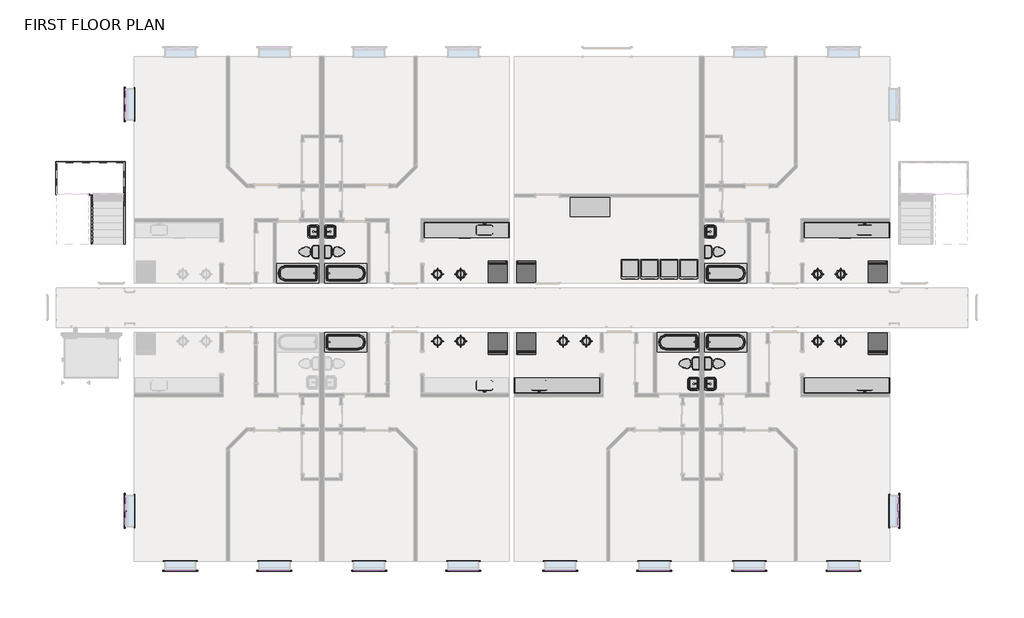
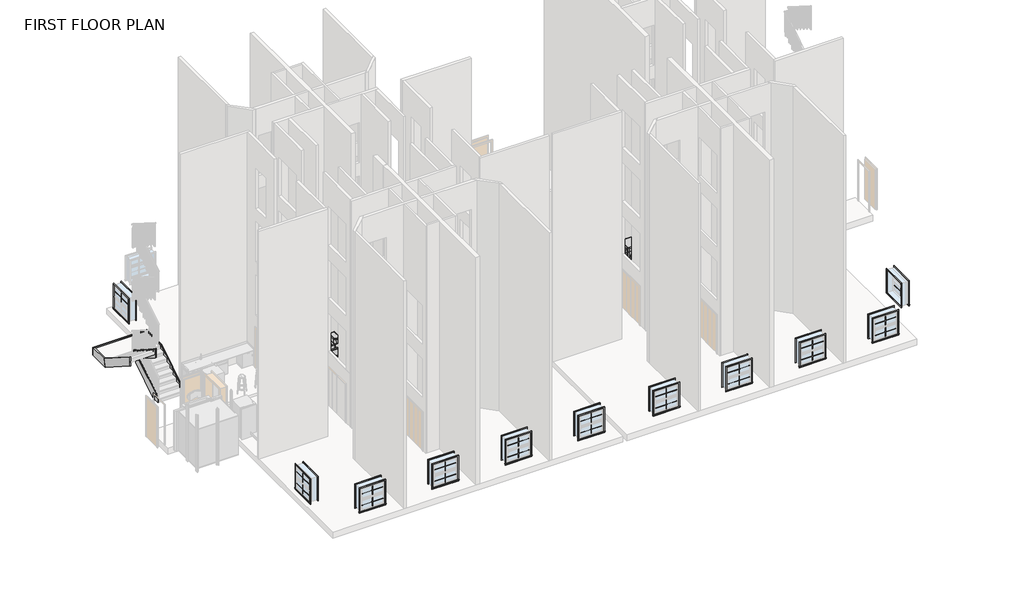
# One storey, part 6 of 7: 55 proxies, 23 furniture elements, 21 flow terminals, 8 members.
"""IFC4 building model written with IfcOpenShell, lengths in millimetres."""

from ifc_helpers import new_model, si_unit, frame, origin, place, context, project, spatial, polyline, outline, extrude, faceted_brep, transform, mapped, element, save
from components import specialty_equipment_021a704d, specialty_equipment_83a1406d, gd1329_240v_washer_card_operated_20cfbccd, k2515_dishwasher_household_k2515_dishwasher_household_46c228bc, muntin_pattern_2x2_muntin_pattern_2x2_c44f4804, muntin_pattern_2x2_muntin_pattern_2x2_05dfa543, muntin_pattern_2x2_muntin_pattern_2x2_770224b8, muntin_pattern_2x2_muntin_pattern_2x2_cf99dd86, trim_window_exterior_flat_with_sill_7cfdd449, trim_window_exterior_flat_with_sill_ac84ebb5, trim_window_interior_flat_picture_frame_f1e0b15b, trim_window_interior_flat_picture_frame_caf2db4f, lsy_sink_1a_065a4558, lsy_sink_1a_83b20bf5, flow_terminal_62a433f7, flow_terminal_4d0de4d3, toilet_domestic_3d_toilet_domestic_3d_f7549cf7, toilet_domestic_3d_toilet_domestic_3d_183bbd19, toilet_domestic_3d_toilet_domestic_3d_a08e12bc, toilet_domestic_3d_toilet_domestic_3d_5530cc89, tub_rectangular_3d_tub_rectangular_3d_2253513b, tub_rectangular_3d_tub_rectangular_3d_4e1d8e59, hb12_hb12_18_68083de8, hb12_hb12_21_dfdbf895, hb12_hb12_21_72806c5e, lsy_bench_top_24dx36h_e849d271, lsy_bench_top_24dx36h_08832318, lab_stool_lab_stool_8e3c4d68, lab_stool_lab_stool_061d08b2, sb02_sb2_36_312036f5, ta02_ta2_60_30d_ad4b619c

model = new_model("IFC4")

# Units and contexts
model_context = context("Model", 3, world=origin())
ifc_project = project(units=[si_unit("LENGTHUNIT", "METRE", prefix="MILLI")], contexts=[model_context])

# Site, building, storey
site = spatial("IfcSite", under=ifc_project)
building = spatial("IfcBuilding", under=site)
storey = spatial("IfcBuildingStorey", under=building, Name="FIRST FLOOR PLAN", Elevation=0.0)

# Proxies
placement = place(None, origin())
specialty_equipment_shape = specialty_equipment_021a704d(model_context)
element("IfcBuildingElementProxy", 1, Name="R7000 - Refrigerator, 14 Cubic Feet : R7000 - Refrigerator, 14 Cubic Feet", ObjectType="R7000 - Refrigerator, 14 Cubic Feet : R7000 - Refrigerator, 14 Cubic Feet", at=placement, inside=storey, context=model_context, shape_type="MappedRepresentation", body=[
    mapped(specialty_equipment_shape, transform((8976.3084875, 6904.9137881, 0.0), x_axis=(-1.0, 0.0, 0.0), y_axis=(0.0, -1.0, 0.0), z_axis=(0.0, 0.0, 1.0))),
])
element("IfcBuildingElementProxy", 2, Name="R7000 - Refrigerator, 14 Cubic Feet : R7000 - Refrigerator, 14 Cubic Feet", ObjectType="R7000 - Refrigerator, 14 Cubic Feet : R7000 - Refrigerator, 14 Cubic Feet", at=placement, inside=storey, context=model_context, shape_type="MappedRepresentation", body=[
    mapped(specialty_equipment_shape, transform((23799.9084875, 6904.9137881, 0.0), x_axis=(-1.0, 0.0, 0.0), y_axis=(0.0, -1.0, 0.0), z_axis=(0.0, 0.0, 1.0))),
])
element("IfcBuildingElementProxy", 3, Name="R7000 - Refrigerator, 14 Cubic Feet : R7000 - Refrigerator, 14 Cubic Feet", ObjectType="R7000 - Refrigerator, 14 Cubic Feet : R7000 - Refrigerator, 14 Cubic Feet", at=placement, inside=storey, context=model_context, shape_type="MappedRepresentation", body=[
    mapped(specialty_equipment_shape, transform((10085.5084875, 4094.7137881, 0.0), x_axis=(1.0, 0.0, 0.0), y_axis=(0.0, 1.0, 0.0), z_axis=(0.0, 0.0, 1.0))),
])
specialty_equipment_2_shape = specialty_equipment_83a1406d(model_context)
element("IfcBuildingElementProxy", 4, Name="R7000 - Refrigerator, 14 Cubic Feet : R7000 - Refrigerator, 14 Cubic Feet", ObjectType="R7000 - Refrigerator, 14 Cubic Feet : R7000 - Refrigerator, 14 Cubic Feet", at=placement, inside=storey, context=model_context, shape_type="MappedRepresentation", body=[
    mapped(specialty_equipment_2_shape, transform((8976.3084875, 4094.7137881, 0.0), x_axis=(-1.0, 0.0, 0.0), y_axis=(0.0, -1.0, 0.0), z_axis=(0.0, 0.0, 1.0))),
])
element("IfcBuildingElementProxy", 5, Name="R7000 - Refrigerator, 14 Cubic Feet : R7000 - Refrigerator, 14 Cubic Feet", ObjectType="R7000 - Refrigerator, 14 Cubic Feet : R7000 - Refrigerator, 14 Cubic Feet", at=placement, inside=storey, context=model_context, shape_type="MappedRepresentation", body=[
    mapped(specialty_equipment_2_shape, transform((23799.9084875, 4094.7137881, 0.0), x_axis=(-1.0, 0.0, 0.0), y_axis=(0.0, -1.0, 0.0), z_axis=(0.0, 0.0, 1.0))),
])
element("IfcBuildingElementProxy", 6, Name="R7000 - Refrigerator, 14 Cubic Feet : R7000 - Refrigerator, 14 Cubic Feet", ObjectType="R7000 - Refrigerator, 14 Cubic Feet : R7000 - Refrigerator, 14 Cubic Feet", at=placement, inside=storey, context=model_context, shape_type="MappedRepresentation", body=[
    mapped(specialty_equipment_2_shape, transform((10084.7084875, 6904.9137881, 0.0), x_axis=(1.0, 0.0, 0.0), y_axis=(0.0, 1.0, 0.0), z_axis=(0.0, 0.0, 1.0))),
])
gd1329_240v_washer_card_operated_shape = gd1329_240v_washer_card_operated_20cfbccd(model_context)
element("IfcBuildingElementProxy", 7, Name="Laundry_Equipment-Dryer-Continental_Girbau-LG_Platinum-Vended-Electric : GD1329 - 240V Washer - Card Operated", ObjectType="Laundry_Equipment-Dryer-Continental_Girbau-LG_Platinum-Vended-Electric : GD1329 - 240V Washer - Card Operated", at=placement, inside=storey, context=model_context, shape_type="MappedRepresentation", body=[
    mapped(gd1329_240v_washer_card_operated_shape, transform((16426.5084875, 6993.3137881, 0.0), x_axis=(1.0, 0.0, 0.0), y_axis=(0.0, 1.0, 0.0), z_axis=(0.0, 0.0, 1.0))),
])
element("IfcBuildingElementProxy", 8, Name="Laundry_Equipment-Dryer-Continental_Girbau-LG_Platinum-Vended-Electric : GD1329 - 240V Washer - Card Operated", ObjectType="Laundry_Equipment-Dryer-Continental_Girbau-LG_Platinum-Vended-Electric : GD1329 - 240V Washer - Card Operated", at=placement, inside=storey, context=model_context, shape_type="MappedRepresentation", body=[
    mapped(gd1329_240v_washer_card_operated_shape, transform((15664.3084875, 6993.3137881, 0.0), x_axis=(1.0, 0.0, 0.0), y_axis=(0.0, 1.0, 0.0), z_axis=(0.0, 0.0, 1.0))),
])
element("IfcBuildingElementProxy", 9, Name="Laundry_Equipment-Dryer-Continental_Girbau-LG_Platinum-Vended-Electric : GD1329 - 240V Washer - Card Operated", ObjectType="Laundry_Equipment-Dryer-Continental_Girbau-LG_Platinum-Vended-Electric : GD1329 - 240V Washer - Card Operated", at=placement, inside=storey, context=model_context, shape_type="MappedRepresentation", body=[
    mapped(gd1329_240v_washer_card_operated_shape, transform((14902.1084875, 6993.3137881, 0.0), x_axis=(1.0, 0.0, 0.0), y_axis=(0.0, 1.0, 0.0), z_axis=(0.0, 0.0, 1.0))),
])
element("IfcBuildingElementProxy", 10, Name="Laundry_Equipment-Dryer-Continental_Girbau-LG_Platinum-Vended-Electric : GD1329 - 240V Washer - Card Operated", ObjectType="Laundry_Equipment-Dryer-Continental_Girbau-LG_Platinum-Vended-Electric : GD1329 - 240V Washer - Card Operated", at=placement, inside=storey, context=model_context, shape_type="MappedRepresentation", body=[
    mapped(gd1329_240v_washer_card_operated_shape, transform((14139.9084875, 6993.3137881, 0.0), x_axis=(1.0, 0.0, 0.0), y_axis=(0.0, 1.0, 0.0), z_axis=(0.0, 0.0, 1.0))),
])
k2515_dishwasher_household_k2515_dishwasher_household_shape = k2515_dishwasher_household_k2515_dishwasher_household_46c228bc(model_context)
element("IfcBuildingElementProxy", 11, Name="K2515 - Dishwasher, Household : K2515 - Dishwasher, Household", ObjectType="K2515 - Dishwasher, Household : K2515 - Dishwasher, Household", at=placement, inside=storey, context=model_context, shape_type="MappedRepresentation", body=[
    mapped(k2515_dishwasher_household_k2515_dishwasher_household_shape, transform((7690.5959875, 8530.5137881, 0.0), x_axis=(-1.0, 0.0, 0.0), y_axis=(0.0, -1.0, 0.0), z_axis=(0.0, 0.0, 1.0))),
])
element("IfcBuildingElementProxy", 12, Name="K2515 - Dishwasher, Household : K2515 - Dishwasher, Household", ObjectType="K2515 - Dishwasher, Household : K2515 - Dishwasher, Household", at=placement, inside=storey, context=model_context, shape_type="MappedRepresentation", body=[
    mapped(k2515_dishwasher_household_k2515_dishwasher_household_shape, transform((22514.9959875, 8530.5137881, 0.0), x_axis=(-1.0, 0.0, 0.0), y_axis=(0.0, -1.0, 0.0), z_axis=(0.0, 0.0, 1.0))),
])
muntin_pattern_2x2_muntin_pattern_2x2_shape = muntin_pattern_2x2_muntin_pattern_2x2_c44f4804(model_context)
element("IfcBuildingElementProxy", 13, Name="Muntin Pattern_2x2 : Muntin Pattern_2x2", ObjectType="Muntin Pattern_2x2 : Muntin Pattern_2x2", at=placement, inside=storey, context=model_context, shape_type="MappedRepresentation", body=[
    mapped(muntin_pattern_2x2_muntin_pattern_2x2_shape, transform((-5537.3665125, 13431.007194, 1593.85), x_axis=(0.0, 1.0, 0.0), y_axis=(-1.0, 0.0, 0.0), z_axis=(0.0, 0.0, 1.0))),
])
element("IfcBuildingElementProxy", 14, Name="Muntin Pattern_2x2 : Muntin Pattern_2x2", ObjectType="Muntin Pattern_2x2 : Muntin Pattern_2x2", at=placement, inside=storey, context=model_context, shape_type="MappedRepresentation", body=[
    mapped(muntin_pattern_2x2_muntin_pattern_2x2_shape, transform((7635.6647375, -4742.0612119, 1593.85), x_axis=(-1.0, 0.0, 0.0), y_axis=(0.0, -1.0, 0.0), z_axis=(0.0, 0.0, 1.0))),
])
element("IfcBuildingElementProxy", 15, Name="Muntin Pattern_2x2 : Muntin Pattern_2x2", ObjectType="Muntin Pattern_2x2 : Muntin Pattern_2x2", at=placement, inside=storey, context=model_context, shape_type="MappedRepresentation", body=[
    mapped(muntin_pattern_2x2_muntin_pattern_2x2_shape, transform((3964.6522375, -4742.0612119, 1593.85), x_axis=(-1.0, 0.0, 0.0), y_axis=(0.0, -1.0, 0.0), z_axis=(0.0, 0.0, 1.0))),
])
element("IfcBuildingElementProxy", 16, Name="Muntin Pattern_2x2 : Muntin Pattern_2x2", ObjectType="Muntin Pattern_2x2 : Muntin Pattern_2x2", at=placement, inside=storey, context=model_context, shape_type="MappedRepresentation", body=[
    mapped(muntin_pattern_2x2_muntin_pattern_2x2_shape, transform((24597.5834875, -2431.3796179, 1593.85), x_axis=(0.0, -1.0, 0.0), y_axis=(1.0, 0.0, 0.0), z_axis=(0.0, 0.0, 1.0))),
])
element("IfcBuildingElementProxy", 17, Name="Muntin Pattern_2x2 : Muntin Pattern_2x2", ObjectType="Muntin Pattern_2x2 : Muntin Pattern_2x2", at=placement, inside=storey, context=model_context, shape_type="MappedRepresentation", body=[
    mapped(muntin_pattern_2x2_muntin_pattern_2x2_shape, transform((22460.0647375, -4742.0612119, 1593.85), x_axis=(-1.0, 0.0, 0.0), y_axis=(0.0, -1.0, 0.0), z_axis=(0.0, 0.0, 1.0))),
])
element("IfcBuildingElementProxy", 18, Name="Muntin Pattern_2x2 : Muntin Pattern_2x2", ObjectType="Muntin Pattern_2x2 : Muntin Pattern_2x2", at=placement, inside=storey, context=model_context, shape_type="MappedRepresentation", body=[
    mapped(muntin_pattern_2x2_muntin_pattern_2x2_shape, transform((18789.0522375, -4742.0612119, 1593.85), x_axis=(-1.0, 0.0, 0.0), y_axis=(0.0, -1.0, 0.0), z_axis=(0.0, 0.0, 1.0))),
])
muntin_pattern_2x2_muntin_pattern_2x2_2_shape = muntin_pattern_2x2_muntin_pattern_2x2_05dfa543(model_context)
element("IfcBuildingElementProxy", 19, Name="Muntin Pattern_2x2 : Muntin Pattern_2x2", ObjectType="Muntin Pattern_2x2 : Muntin Pattern_2x2", at=placement, inside=storey, context=model_context, shape_type="MappedRepresentation", body=[
    mapped(muntin_pattern_2x2_muntin_pattern_2x2_2_shape, transform((7635.6647375, -4742.0612119, 984.25), x_axis=(-1.0, 0.0, 0.0), y_axis=(0.0, -1.0, 0.0), z_axis=(0.0, 0.0, 1.0))),
])
element("IfcBuildingElementProxy", 20, Name="Muntin Pattern_2x2 : Muntin Pattern_2x2", ObjectType="Muntin Pattern_2x2 : Muntin Pattern_2x2", at=placement, inside=storey, context=model_context, shape_type="MappedRepresentation", body=[
    mapped(muntin_pattern_2x2_muntin_pattern_2x2_2_shape, transform((3964.6522375, -4742.0612119, 984.25), x_axis=(-1.0, 0.0, 0.0), y_axis=(0.0, -1.0, 0.0), z_axis=(0.0, 0.0, 1.0))),
])
element("IfcBuildingElementProxy", 21, Name="Muntin Pattern_2x2 : Muntin Pattern_2x2", ObjectType="Muntin Pattern_2x2 : Muntin Pattern_2x2", at=placement, inside=storey, context=model_context, shape_type="MappedRepresentation", body=[
    mapped(muntin_pattern_2x2_muntin_pattern_2x2_2_shape, transform((24597.5834875, -2431.3796179, 984.25), x_axis=(0.0, -1.0, 0.0), y_axis=(1.0, 0.0, 0.0), z_axis=(0.0, 0.0, 1.0))),
])
element("IfcBuildingElementProxy", 22, Name="Muntin Pattern_2x2 : Muntin Pattern_2x2", ObjectType="Muntin Pattern_2x2 : Muntin Pattern_2x2", at=placement, inside=storey, context=model_context, shape_type="MappedRepresentation", body=[
    mapped(muntin_pattern_2x2_muntin_pattern_2x2_2_shape, transform((22460.0647375, -4742.0612119, 984.25), x_axis=(-1.0, 0.0, 0.0), y_axis=(0.0, -1.0, 0.0), z_axis=(0.0, 0.0, 1.0))),
])
element("IfcBuildingElementProxy", 23, Name="Muntin Pattern_2x2 : Muntin Pattern_2x2", ObjectType="Muntin Pattern_2x2 : Muntin Pattern_2x2", at=placement, inside=storey, context=model_context, shape_type="MappedRepresentation", body=[
    mapped(muntin_pattern_2x2_muntin_pattern_2x2_2_shape, transform((18789.0522375, -4742.0612119, 984.25), x_axis=(-1.0, 0.0, 0.0), y_axis=(0.0, -1.0, 0.0), z_axis=(0.0, 0.0, 1.0))),
])
muntin_pattern_2x2_muntin_pattern_2x2_3_shape = muntin_pattern_2x2_muntin_pattern_2x2_770224b8(model_context)
element("IfcBuildingElementProxy", 24, Name="Muntin Pattern_2x2 : Muntin Pattern_2x2", ObjectType="Muntin Pattern_2x2 : Muntin Pattern_2x2", at=placement, inside=storey, context=model_context, shape_type="MappedRepresentation", body=[
    mapped(muntin_pattern_2x2_muntin_pattern_2x2_3_shape, transform((-5537.3665125, -2431.3796179, 1593.85), x_axis=(0.0, -1.0, 0.0), y_axis=(1.0, 0.0, 0.0), z_axis=(0.0, 0.0, 1.0))),
])
element("IfcBuildingElementProxy", 25, Name="Muntin Pattern_2x2 : Muntin Pattern_2x2", ObjectType="Muntin Pattern_2x2 : Muntin Pattern_2x2", at=placement, inside=storey, context=model_context, shape_type="MappedRepresentation", body=[
    mapped(muntin_pattern_2x2_muntin_pattern_2x2_3_shape, transform((-3399.0477625, -4742.0612119, 1593.85), x_axis=(1.0, 0.0, 0.0), y_axis=(0.0, 1.0, 0.0), z_axis=(0.0, 0.0, 1.0))),
])
element("IfcBuildingElementProxy", 26, Name="Muntin Pattern_2x2 : Muntin Pattern_2x2", ObjectType="Muntin Pattern_2x2 : Muntin Pattern_2x2", at=placement, inside=storey, context=model_context, shape_type="MappedRepresentation", body=[
    mapped(muntin_pattern_2x2_muntin_pattern_2x2_3_shape, transform((271.9647375, -4742.0612119, 1593.85), x_axis=(1.0, 0.0, 0.0), y_axis=(0.0, 1.0, 0.0), z_axis=(0.0, 0.0, 1.0))),
])
element("IfcBuildingElementProxy", 27, Name="Muntin Pattern_2x2 : Muntin Pattern_2x2", ObjectType="Muntin Pattern_2x2 : Muntin Pattern_2x2", at=placement, inside=storey, context=model_context, shape_type="MappedRepresentation", body=[
    mapped(muntin_pattern_2x2_muntin_pattern_2x2_3_shape, transform((11414.5522375, -4742.0612119, 1593.85), x_axis=(1.0, 0.0, 0.0), y_axis=(0.0, 1.0, 0.0), z_axis=(0.0, 0.0, 1.0))),
])
element("IfcBuildingElementProxy", 28, Name="Muntin Pattern_2x2 : Muntin Pattern_2x2", ObjectType="Muntin Pattern_2x2 : Muntin Pattern_2x2", at=placement, inside=storey, context=model_context, shape_type="MappedRepresentation", body=[
    mapped(muntin_pattern_2x2_muntin_pattern_2x2_3_shape, transform((15085.5647375, -4742.0612119, 1593.85), x_axis=(1.0, 0.0, 0.0), y_axis=(0.0, 1.0, 0.0), z_axis=(0.0, 0.0, 1.0))),
])
muntin_pattern_2x2_muntin_pattern_2x2_4_shape = muntin_pattern_2x2_muntin_pattern_2x2_cf99dd86(model_context)
element("IfcBuildingElementProxy", 29, Name="Muntin Pattern_2x2 : Muntin Pattern_2x2", ObjectType="Muntin Pattern_2x2 : Muntin Pattern_2x2", at=placement, inside=storey, context=model_context, shape_type="MappedRepresentation", body=[
    mapped(muntin_pattern_2x2_muntin_pattern_2x2_4_shape, transform((-5537.3665125, -2431.3796179, 984.25), x_axis=(0.0, -1.0, 0.0), y_axis=(1.0, 0.0, 0.0), z_axis=(0.0, 0.0, 1.0))),
])
element("IfcBuildingElementProxy", 30, Name="Muntin Pattern_2x2 : Muntin Pattern_2x2", ObjectType="Muntin Pattern_2x2 : Muntin Pattern_2x2", at=placement, inside=storey, context=model_context, shape_type="MappedRepresentation", body=[
    mapped(muntin_pattern_2x2_muntin_pattern_2x2_4_shape, transform((-3399.0477625, -4742.0612119, 984.25), x_axis=(1.0, 0.0, 0.0), y_axis=(0.0, 1.0, 0.0), z_axis=(0.0, 0.0, 1.0))),
])
element("IfcBuildingElementProxy", 31, Name="Muntin Pattern_2x2 : Muntin Pattern_2x2", ObjectType="Muntin Pattern_2x2 : Muntin Pattern_2x2", at=placement, inside=storey, context=model_context, shape_type="MappedRepresentation", body=[
    mapped(muntin_pattern_2x2_muntin_pattern_2x2_4_shape, transform((271.9647375, -4742.0612119, 984.25), x_axis=(1.0, 0.0, 0.0), y_axis=(0.0, 1.0, 0.0), z_axis=(0.0, 0.0, 1.0))),
])
element("IfcBuildingElementProxy", 32, Name="Muntin Pattern_2x2 : Muntin Pattern_2x2", ObjectType="Muntin Pattern_2x2 : Muntin Pattern_2x2", at=placement, inside=storey, context=model_context, shape_type="MappedRepresentation", body=[
    mapped(muntin_pattern_2x2_muntin_pattern_2x2_4_shape, transform((11414.5522375, -4742.0612119, 984.25), x_axis=(1.0, 0.0, 0.0), y_axis=(0.0, 1.0, 0.0), z_axis=(0.0, 0.0, 1.0))),
])
element("IfcBuildingElementProxy", 33, Name="Muntin Pattern_2x2 : Muntin Pattern_2x2", ObjectType="Muntin Pattern_2x2 : Muntin Pattern_2x2", at=placement, inside=storey, context=model_context, shape_type="MappedRepresentation", body=[
    mapped(muntin_pattern_2x2_muntin_pattern_2x2_4_shape, transform((15085.5647375, -4742.0612119, 984.25), x_axis=(1.0, 0.0, 0.0), y_axis=(0.0, 1.0, 0.0), z_axis=(0.0, 0.0, 1.0))),
])
trim_window_exterior_flat_with_sill_shape = trim_window_exterior_flat_with_sill_7cfdd449(model_context)
element("IfcBuildingElementProxy", 34, Name="Trim-Window-Exterior-Flat : with Sill", ObjectType="Trim-Window-Exterior-Flat : with Sill", at=placement, inside=storey, context=model_context, shape_type="MappedRepresentation", body=[
    mapped(trim_window_exterior_flat_with_sill_shape, transform((-5546.8915125, 13431.007194, 2133.6), x_axis=(0.0, -1.0, 0.0), y_axis=(0.0, 0.0, 1.0), z_axis=(-1.0, 0.0, 0.0))),
])
element("IfcBuildingElementProxy", 35, Name="Trim-Window-Exterior-Flat : with Sill", ObjectType="Trim-Window-Exterior-Flat : with Sill", at=placement, inside=storey, context=model_context, shape_type="MappedRepresentation", body=[
    mapped(trim_window_exterior_flat_with_sill_shape, transform((7635.6647375, -4751.5862119, 2133.6), x_axis=(1.0, 0.0, 0.0), y_axis=(0.0, 0.0, 1.0), z_axis=(0.0, -1.0, 0.0))),
])
element("IfcBuildingElementProxy", 36, Name="Trim-Window-Exterior-Flat : with Sill", ObjectType="Trim-Window-Exterior-Flat : with Sill", at=placement, inside=storey, context=model_context, shape_type="MappedRepresentation", body=[
    mapped(trim_window_exterior_flat_with_sill_shape, transform((3964.6522375, -4751.5862119, 2133.6), x_axis=(1.0, 0.0, 0.0), y_axis=(0.0, 0.0, 1.0), z_axis=(0.0, -1.0, 0.0))),
])
element("IfcBuildingElementProxy", 37, Name="Trim-Window-Exterior-Flat : with Sill", ObjectType="Trim-Window-Exterior-Flat : with Sill", at=placement, inside=storey, context=model_context, shape_type="MappedRepresentation", body=[
    mapped(trim_window_exterior_flat_with_sill_shape, transform((24607.1084875, -2431.3796179, 2133.6), x_axis=(0.0, 1.0, 0.0), y_axis=(0.0, 0.0, 1.0), z_axis=(1.0, 0.0, 0.0))),
])
element("IfcBuildingElementProxy", 38, Name="Trim-Window-Exterior-Flat : with Sill", ObjectType="Trim-Window-Exterior-Flat : with Sill", at=placement, inside=storey, context=model_context, shape_type="MappedRepresentation", body=[
    mapped(trim_window_exterior_flat_with_sill_shape, transform((22460.0647375, -4751.5862119, 2133.6), x_axis=(1.0, 0.0, 0.0), y_axis=(0.0, 0.0, 1.0), z_axis=(0.0, -1.0, 0.0))),
])
element("IfcBuildingElementProxy", 39, Name="Trim-Window-Exterior-Flat : with Sill", ObjectType="Trim-Window-Exterior-Flat : with Sill", at=placement, inside=storey, context=model_context, shape_type="MappedRepresentation", body=[
    mapped(trim_window_exterior_flat_with_sill_shape, transform((18789.0522375, -4751.5862119, 2133.6), x_axis=(1.0, 0.0, 0.0), y_axis=(0.0, 0.0, 1.0), z_axis=(0.0, -1.0, 0.0))),
])
trim_window_exterior_flat_with_sill_2_shape = trim_window_exterior_flat_with_sill_ac84ebb5(model_context)
element("IfcBuildingElementProxy", 40, Name="Trim-Window-Exterior-Flat : with Sill", ObjectType="Trim-Window-Exterior-Flat : with Sill", at=placement, inside=storey, context=model_context, shape_type="MappedRepresentation", body=[
    mapped(trim_window_exterior_flat_with_sill_2_shape, transform((-5546.8915125, -2431.3796179, 2133.6), x_axis=(0.0, 1.0, 0.0), y_axis=(0.0, 0.0, -1.0), z_axis=(-1.0, 0.0, 0.0))),
])
element("IfcBuildingElementProxy", 41, Name="Trim-Window-Exterior-Flat : with Sill", ObjectType="Trim-Window-Exterior-Flat : with Sill", at=placement, inside=storey, context=model_context, shape_type="MappedRepresentation", body=[
    mapped(trim_window_exterior_flat_with_sill_2_shape, transform((-3399.0477625, -4751.5862119, 2133.6), x_axis=(-1.0, 0.0, 0.0), y_axis=(0.0, 0.0, -1.0), z_axis=(0.0, -1.0, 0.0))),
])
element("IfcBuildingElementProxy", 42, Name="Trim-Window-Exterior-Flat : with Sill", ObjectType="Trim-Window-Exterior-Flat : with Sill", at=placement, inside=storey, context=model_context, shape_type="MappedRepresentation", body=[
    mapped(trim_window_exterior_flat_with_sill_2_shape, transform((271.9647375, -4751.5862119, 2133.6), x_axis=(-1.0, 0.0, 0.0), y_axis=(0.0, 0.0, -1.0), z_axis=(0.0, -1.0, 0.0))),
])
element("IfcBuildingElementProxy", 43, Name="Trim-Window-Exterior-Flat : with Sill", ObjectType="Trim-Window-Exterior-Flat : with Sill", at=placement, inside=storey, context=model_context, shape_type="MappedRepresentation", body=[
    mapped(trim_window_exterior_flat_with_sill_2_shape, transform((11414.5522375, -4751.5862119, 2133.6), x_axis=(-1.0, 0.0, 0.0), y_axis=(0.0, 0.0, -1.0), z_axis=(0.0, -1.0, 0.0))),
])
element("IfcBuildingElementProxy", 44, Name="Trim-Window-Exterior-Flat : with Sill", ObjectType="Trim-Window-Exterior-Flat : with Sill", at=placement, inside=storey, context=model_context, shape_type="MappedRepresentation", body=[
    mapped(trim_window_exterior_flat_with_sill_2_shape, transform((15085.5647375, -4751.5862119, 2133.6), x_axis=(-1.0, 0.0, 0.0), y_axis=(0.0, 0.0, -1.0), z_axis=(0.0, -1.0, 0.0))),
])
trim_window_interior_flat_picture_frame_shape = trim_window_interior_flat_picture_frame_f1e0b15b(model_context)
element("IfcBuildingElementProxy", 45, Name="Trim-Window-Interior-Flat : Picture Frame", ObjectType="Trim-Window-Interior-Flat : Picture Frame", at=placement, inside=storey, context=model_context, shape_type="MappedRepresentation", body=[
    mapped(trim_window_interior_flat_picture_frame_shape, transform((-5196.8915125, 13431.007194, 2133.6), x_axis=(0.0, 1.0, 0.0), y_axis=(0.0, 0.0, 1.0), z_axis=(1.0, 0.0, 0.0))),
])
element("IfcBuildingElementProxy", 46, Name="Trim-Window-Interior-Flat : Picture Frame", ObjectType="Trim-Window-Interior-Flat : Picture Frame", at=placement, inside=storey, context=model_context, shape_type="MappedRepresentation", body=[
    mapped(trim_window_interior_flat_picture_frame_shape, transform((7635.6647375, -4401.5862119, 2133.6), x_axis=(-1.0, 0.0, 0.0), y_axis=(0.0, 0.0, 1.0), z_axis=(0.0, 1.0, 0.0))),
])
element("IfcBuildingElementProxy", 47, Name="Trim-Window-Interior-Flat : Picture Frame", ObjectType="Trim-Window-Interior-Flat : Picture Frame", at=placement, inside=storey, context=model_context, shape_type="MappedRepresentation", body=[
    mapped(trim_window_interior_flat_picture_frame_shape, transform((3964.6522375, -4401.5862119, 2133.6), x_axis=(-1.0, 0.0, 0.0), y_axis=(0.0, 0.0, 1.0), z_axis=(0.0, 1.0, 0.0))),
])
element("IfcBuildingElementProxy", 48, Name="Trim-Window-Interior-Flat : Picture Frame", ObjectType="Trim-Window-Interior-Flat : Picture Frame", at=placement, inside=storey, context=model_context, shape_type="MappedRepresentation", body=[
    mapped(trim_window_interior_flat_picture_frame_shape, transform((24257.1084875, -2431.3796179, 2133.6), x_axis=(0.0, -1.0, 0.0), y_axis=(0.0, 0.0, 1.0), z_axis=(-1.0, 0.0, 0.0))),
])
element("IfcBuildingElementProxy", 49, Name="Trim-Window-Interior-Flat : Picture Frame", ObjectType="Trim-Window-Interior-Flat : Picture Frame", at=placement, inside=storey, context=model_context, shape_type="MappedRepresentation", body=[
    mapped(trim_window_interior_flat_picture_frame_shape, transform((22460.0647375, -4401.5862119, 2133.6), x_axis=(-1.0, 0.0, 0.0), y_axis=(0.0, 0.0, 1.0), z_axis=(0.0, 1.0, 0.0))),
])
element("IfcBuildingElementProxy", 50, Name="Trim-Window-Interior-Flat : Picture Frame", ObjectType="Trim-Window-Interior-Flat : Picture Frame", at=placement, inside=storey, context=model_context, shape_type="MappedRepresentation", body=[
    mapped(trim_window_interior_flat_picture_frame_shape, transform((18789.0522375, -4401.5862119, 2133.6), x_axis=(-1.0, 0.0, 0.0), y_axis=(0.0, 0.0, 1.0), z_axis=(0.0, 1.0, 0.0))),
])
trim_window_interior_flat_picture_frame_2_shape = trim_window_interior_flat_picture_frame_caf2db4f(model_context)
element("IfcBuildingElementProxy", 51, Name="Trim-Window-Interior-Flat : Picture Frame", ObjectType="Trim-Window-Interior-Flat : Picture Frame", at=placement, inside=storey, context=model_context, shape_type="MappedRepresentation", body=[
    mapped(trim_window_interior_flat_picture_frame_2_shape, transform((-5196.8915125, -2431.3796179, 2133.6), x_axis=(0.0, -1.0, 0.0), y_axis=(0.0, 0.0, -1.0), z_axis=(1.0, 0.0, 0.0))),
])
element("IfcBuildingElementProxy", 52, Name="Trim-Window-Interior-Flat : Picture Frame", ObjectType="Trim-Window-Interior-Flat : Picture Frame", at=placement, inside=storey, context=model_context, shape_type="MappedRepresentation", body=[
    mapped(trim_window_interior_flat_picture_frame_2_shape, transform((-3399.0477625, -4401.5862119, 2133.6), x_axis=(1.0, 0.0, 0.0), y_axis=(0.0, 0.0, -1.0), z_axis=(0.0, 1.0, 0.0))),
])
element("IfcBuildingElementProxy", 53, Name="Trim-Window-Interior-Flat : Picture Frame", ObjectType="Trim-Window-Interior-Flat : Picture Frame", at=placement, inside=storey, context=model_context, shape_type="MappedRepresentation", body=[
    mapped(trim_window_interior_flat_picture_frame_2_shape, transform((271.9647375, -4401.5862119, 2133.6), x_axis=(1.0, 0.0, 0.0), y_axis=(0.0, 0.0, -1.0), z_axis=(0.0, 1.0, 0.0))),
])
element("IfcBuildingElementProxy", 54, Name="Trim-Window-Interior-Flat : Picture Frame", ObjectType="Trim-Window-Interior-Flat : Picture Frame", at=placement, inside=storey, context=model_context, shape_type="MappedRepresentation", body=[
    mapped(trim_window_interior_flat_picture_frame_2_shape, transform((11414.5522375, -4401.5862119, 2133.6), x_axis=(1.0, 0.0, 0.0), y_axis=(0.0, 0.0, -1.0), z_axis=(0.0, 1.0, 0.0))),
])
element("IfcBuildingElementProxy", 55, Name="Trim-Window-Interior-Flat : Picture Frame", ObjectType="Trim-Window-Interior-Flat : Picture Frame", at=placement, inside=storey, context=model_context, shape_type="MappedRepresentation", body=[
    mapped(trim_window_interior_flat_picture_frame_2_shape, transform((15085.5647375, -4401.5862119, 2133.6), x_axis=(1.0, 0.0, 0.0), y_axis=(0.0, 0.0, -1.0), z_axis=(0.0, 1.0, 0.0))),
])

# Flow terminals
lsy_sink_1a_shape = lsy_sink_1a_065a4558(model_context)
element("IfcFlowTerminal", 56, ObjectType="LSY_Sink_1A : 25\"W x 15\"D", at=placement, inside=storey, context=model_context, shape_type="MappedRepresentation", body=[
    mapped(lsy_sink_1a_shape, transform((8482.410228, 2373.0341892, -38.1), x_axis=(-1.0, 0.0, 0.0), y_axis=(0.0, -1.0, 0.0), z_axis=(0.0, 0.0, 1.0))),
])
element("IfcFlowTerminal", 57, ObjectType="LSY_Sink_1A : 25\"W x 15\"D", at=placement, inside=storey, context=model_context, shape_type="MappedRepresentation", body=[
    mapped(lsy_sink_1a_shape, transform((23306.010228, 2373.0341892, -38.1), x_axis=(-1.0, 0.0, 0.0), y_axis=(0.0, -1.0, 0.0), z_axis=(0.0, 0.0, 1.0))),
])
lsy_sink_1a_2_shape = lsy_sink_1a_83b20bf5(model_context)
element("IfcFlowTerminal", 58, ObjectType="LSY_Sink_1A : 25\"W x 15\"D", at=placement, inside=storey, context=model_context, shape_type="MappedRepresentation", body=[
    mapped(lsy_sink_1a_2_shape, transform((8482.410228, 8626.5933869, -38.1), x_axis=(-1.0, 0.0, 0.0), y_axis=(0.0, -1.0, 0.0), z_axis=(0.0, 0.0, 1.0))),
])
element("IfcFlowTerminal", 59, ObjectType="LSY_Sink_1A : 25\"W x 15\"D", at=placement, inside=storey, context=model_context, shape_type="MappedRepresentation", body=[
    mapped(lsy_sink_1a_2_shape, transform((23306.010228, 8626.5933869, -38.1), x_axis=(-1.0, 0.0, 0.0), y_axis=(0.0, -1.0, 0.0), z_axis=(0.0, 0.0, 1.0))),
])
element("IfcFlowTerminal", 60, ObjectType="LSY_Sink_1A : 25\"W x 15\"D", at=placement, inside=storey, context=model_context, shape_type="MappedRepresentation", body=[
    mapped(lsy_sink_1a_2_shape, transform((10579.4067469, 2373.0341892, -38.1), x_axis=(1.0, 0.0, 0.0), y_axis=(0.0, 1.0, 0.0), z_axis=(0.0, 0.0, 1.0))),
])
flow_terminal_shape = flow_terminal_62a433f7(model_context)
element("IfcFlowTerminal", 61, ObjectType="Sink Vanity-Square : 20\" x 18\"", at=placement, inside=storey, context=model_context, shape_type="MappedRepresentation", body=[
    mapped(flow_terminal_shape, transform((1841.1630863, 8482.7030286, 0.0), x_axis=(0.0, -1.0, 0.0), y_axis=(1.0, 0.0, 0.0), z_axis=(0.0, 0.0, 1.0))),
])
element("IfcFlowTerminal", 62, ObjectType="Sink Vanity-Square : 20\" x 18\"", at=placement, inside=storey, context=model_context, shape_type="MappedRepresentation", body=[
    mapped(flow_terminal_shape, transform((17219.0538886, 2516.9245475, 0.0), x_axis=(0.0, 1.0, 0.0), y_axis=(-1.0, 0.0, 0.0), z_axis=(0.0, 0.0, 1.0))),
])
flow_terminal_2_shape = flow_terminal_4d0de4d3(model_context)
element("IfcFlowTerminal", 63, ObjectType="Sink Vanity-Square : 20\" x 18\"", at=placement, inside=storey, context=model_context, shape_type="MappedRepresentation", body=[
    mapped(flow_terminal_2_shape, transform((2395.4538886, 8482.7030286, 0.0), x_axis=(0.0, -1.0, 0.0), y_axis=(1.0, 0.0, 0.0), z_axis=(0.0, 0.0, 1.0))),
])
element("IfcFlowTerminal", 64, ObjectType="Sink Vanity-Square : 20\" x 18\"", at=placement, inside=storey, context=model_context, shape_type="MappedRepresentation", body=[
    mapped(flow_terminal_2_shape, transform((17219.0538886, 8482.7030286, 0.0), x_axis=(0.0, -1.0, 0.0), y_axis=(1.0, 0.0, 0.0), z_axis=(0.0, 0.0, 1.0))),
])
element("IfcFlowTerminal", 65, ObjectType="Sink Vanity-Square : 20\" x 18\"", at=placement, inside=storey, context=model_context, shape_type="MappedRepresentation", body=[
    mapped(flow_terminal_2_shape, transform((16666.3630863, 2516.9245475, 0.0), x_axis=(0.0, 1.0, 0.0), y_axis=(-1.0, 0.0, 0.0), z_axis=(0.0, 0.0, 1.0))),
])
toilet_domestic_3d_toilet_domestic_3d_shape = toilet_domestic_3d_toilet_domestic_3d_f7549cf7(model_context)
toilet_domestic_3d_toilet_domestic_3d_2_shape = toilet_domestic_3d_toilet_domestic_3d_183bbd19(model_context)
element("IfcFlowTerminal", 66, ObjectType="Toilet-Domestic-3D : Toilet-Domestic-3D", at=placement, inside=storey, context=model_context, shape_type="MappedRepresentation", body=[
    mapped(toilet_domestic_3d_toilet_domestic_3d_shape, transform((1526.6124601, 7679.6137881, 0.0), x_axis=(0.0, -1.0, 0.0), y_axis=(1.0, 0.0, 0.0), z_axis=(0.0, 0.0, 1.0))),
    mapped(toilet_domestic_3d_toilet_domestic_3d_2_shape, transform((1526.6124601, 7679.6137881, 0.0), x_axis=(0.0, -1.0, 0.0), y_axis=(1.0, 0.0, 0.0), z_axis=(0.0, 0.0, 1.0))),
])
element("IfcFlowTerminal", 67, ObjectType="Toilet-Domestic-3D : Toilet-Domestic-3D", at=placement, inside=storey, context=model_context, shape_type="MappedRepresentation", body=[
    mapped(toilet_domestic_3d_toilet_domestic_3d_shape, transform((17533.6045148, 3320.0137881, 0.0), x_axis=(0.0, 1.0, 0.0), y_axis=(-1.0, 0.0, 0.0), z_axis=(0.0, 0.0, 1.0))),
    mapped(toilet_domestic_3d_toilet_domestic_3d_2_shape, transform((17533.6045148, 3320.0137881, 0.0), x_axis=(0.0, 1.0, 0.0), y_axis=(-1.0, 0.0, 0.0), z_axis=(0.0, 0.0, 1.0))),
])
toilet_domestic_3d_toilet_domestic_3d_3_shape = toilet_domestic_3d_toilet_domestic_3d_a08e12bc(model_context)
toilet_domestic_3d_toilet_domestic_3d_4_shape = toilet_domestic_3d_toilet_domestic_3d_5530cc89(model_context)
element("IfcFlowTerminal", 68, ObjectType="Toilet-Domestic-3D : Toilet-Domestic-3D", at=placement, inside=storey, context=model_context, shape_type="MappedRepresentation", body=[
    mapped(toilet_domestic_3d_toilet_domestic_3d_3_shape, transform((2710.0045148, 7679.6137881, 0.0), x_axis=(0.0, -1.0, 0.0), y_axis=(1.0, 0.0, 0.0), z_axis=(0.0, 0.0, 1.0))),
    mapped(toilet_domestic_3d_toilet_domestic_3d_4_shape, transform((2710.0045148, 7679.6137881, 0.0), x_axis=(0.0, -1.0, 0.0), y_axis=(1.0, 0.0, 0.0), z_axis=(0.0, 0.0, 1.0))),
])
element("IfcFlowTerminal", 69, ObjectType="Toilet-Domestic-3D : Toilet-Domestic-3D", at=placement, inside=storey, context=model_context, shape_type="MappedRepresentation", body=[
    mapped(toilet_domestic_3d_toilet_domestic_3d_3_shape, transform((17533.6045148, 7679.6137881, 0.0), x_axis=(0.0, -1.0, 0.0), y_axis=(1.0, 0.0, 0.0), z_axis=(0.0, 0.0, 1.0))),
    mapped(toilet_domestic_3d_toilet_domestic_3d_4_shape, transform((17533.6045148, 7679.6137881, 0.0), x_axis=(0.0, -1.0, 0.0), y_axis=(1.0, 0.0, 0.0), z_axis=(0.0, 0.0, 1.0))),
])
element("IfcFlowTerminal", 70, ObjectType="Toilet-Domestic-3D : Toilet-Domestic-3D", at=placement, inside=storey, context=model_context, shape_type="MappedRepresentation", body=[
    mapped(toilet_domestic_3d_toilet_domestic_3d_3_shape, transform((16351.8124601, 3320.0137881, 0.0), x_axis=(0.0, 1.0, 0.0), y_axis=(-1.0, 0.0, 0.0), z_axis=(0.0, 0.0, 1.0))),
    mapped(toilet_domestic_3d_toilet_domestic_3d_4_shape, transform((16351.8124601, 3320.0137881, 0.0), x_axis=(0.0, 1.0, 0.0), y_axis=(-1.0, 0.0, 0.0), z_axis=(0.0, 0.0, 1.0))),
])
tub_rectangular_3d_tub_rectangular_3d_shape = tub_rectangular_3d_tub_rectangular_3d_2253513b(model_context)
element("IfcFlowTerminal", 71, ObjectType="Tub-Rectangular-3D : Tub-Rectangular-3D", at=placement, inside=storey, context=model_context, shape_type="MappedRepresentation", body=[
    mapped(tub_rectangular_3d_tub_rectangular_3d_shape, transform((913.8805188, 6363.4137881, 0.0), x_axis=(-1.0, 0.0, 0.0), y_axis=(0.0, -1.0, 0.0), z_axis=(0.0, 0.0, 1.0))),
])
element("IfcFlowTerminal", 72, ObjectType="Tub-Rectangular-3D : Tub-Rectangular-3D", at=placement, inside=storey, context=model_context, shape_type="MappedRepresentation", body=[
    mapped(tub_rectangular_3d_tub_rectangular_3d_shape, transform((3325.9114562, 4636.2137881, 0.0), x_axis=(1.0, 0.0, 0.0), y_axis=(0.0, 1.0, 0.0), z_axis=(0.0, 0.0, 1.0))),
])
element("IfcFlowTerminal", 73, ObjectType="Tub-Rectangular-3D : Tub-Rectangular-3D", at=placement, inside=storey, context=model_context, shape_type="MappedRepresentation", body=[
    mapped(tub_rectangular_3d_tub_rectangular_3d_shape, transform((18146.3364562, 4636.2137881, 0.0), x_axis=(1.0, 0.0, 0.0), y_axis=(0.0, 1.0, 0.0), z_axis=(0.0, 0.0, 1.0))),
])
tub_rectangular_3d_tub_rectangular_3d_2_shape = tub_rectangular_3d_tub_rectangular_3d_4e1d8e59(model_context)
element("IfcFlowTerminal", 74, ObjectType="Tub-Rectangular-3D : Tub-Rectangular-3D", at=placement, inside=storey, context=model_context, shape_type="MappedRepresentation", body=[
    mapped(tub_rectangular_3d_tub_rectangular_3d_2_shape, transform((3322.7364562, 6363.4137881, 0.0), x_axis=(1.0, 0.0, 0.0), y_axis=(0.0, 1.0, 0.0), z_axis=(0.0, 0.0, 1.0))),
])
element("IfcFlowTerminal", 75, ObjectType="Tub-Rectangular-3D : Tub-Rectangular-3D", at=placement, inside=storey, context=model_context, shape_type="MappedRepresentation", body=[
    mapped(tub_rectangular_3d_tub_rectangular_3d_2_shape, transform((18146.3364562, 6363.4137881, 0.0), x_axis=(1.0, 0.0, 0.0), y_axis=(0.0, 1.0, 0.0), z_axis=(0.0, 0.0, 1.0))),
])
element("IfcFlowTerminal", 76, ObjectType="Tub-Rectangular-3D : Tub-Rectangular-3D", at=placement, inside=storey, context=model_context, shape_type="MappedRepresentation", body=[
    mapped(tub_rectangular_3d_tub_rectangular_3d_2_shape, transform((15739.0805188, 4636.2137881, 0.0), x_axis=(-1.0, 0.0, 0.0), y_axis=(0.0, -1.0, 0.0), z_axis=(0.0, 0.0, 1.0))),
])

# Furniture
hb12_hb12_18_shape = hb12_hb12_18_68083de8(model_context)
element("IfcFurniture", 77, ObjectType="HB12 : HB12-18", at=placement, inside=storey, context=model_context, shape_type="MappedRepresentation", body=[
    mapped(hb12_hb12_18_shape, transform((9119.6582825, 8848.0137881, 0.0), x_axis=(1.0, 0.0, 0.0), y_axis=(0.0, 1.0, 0.0), z_axis=(0.0, 0.0, 1.0))),
])
element("IfcFurniture", 78, ObjectType="HB12 : HB12-18", at=placement, inside=storey, context=model_context, shape_type="MappedRepresentation", body=[
    mapped(hb12_hb12_18_shape, transform((23944.0582825, 8848.0137881, 0.0), x_axis=(1.0, 0.0, 0.0), y_axis=(0.0, 1.0, 0.0), z_axis=(0.0, 0.0, 1.0))),
])
hb12_hb12_21_shape = hb12_hb12_21_dfdbf895(model_context)
element("IfcFurniture", 79, ObjectType="HB12 : HB12-21", at=placement, inside=storey, context=model_context, shape_type="MappedRepresentation", body=[
    mapped(hb12_hb12_21_shape, transform((21201.0211924, 2151.6137881, 0.0), x_axis=(-1.0, 0.0, 0.0), y_axis=(0.0, -1.0, 0.0), z_axis=(0.0, 0.0, 1.0))),
])
hb12_hb12_21_2_shape = hb12_hb12_21_72806c5e(model_context)
element("IfcFurniture", 80, ObjectType="HB12 : HB12-21", at=placement, inside=storey, context=model_context, shape_type="MappedRepresentation", body=[
    mapped(hb12_hb12_21_2_shape, transform((6377.4211924, 8848.0137881, 0.0), x_axis=(-1.0, 0.0, 0.0), y_axis=(0.0, -1.0, 0.0), z_axis=(0.0, 0.0, 1.0))),
])
element("IfcFurniture", 81, ObjectType="HB12 : HB12-21", at=placement, inside=storey, context=model_context, shape_type="MappedRepresentation", body=[
    mapped(hb12_hb12_21_2_shape, transform((21201.0211924, 8848.0137881, 0.0), x_axis=(-1.0, 0.0, 0.0), y_axis=(0.0, -1.0, 0.0), z_axis=(0.0, 0.0, 1.0))),
])
element("IfcFurniture", 82, ObjectType="HB12 : HB12-21", at=placement, inside=storey, context=model_context, shape_type="MappedRepresentation", body=[
    mapped(hb12_hb12_21_2_shape, transform((12684.3957825, 2151.6137881, 0.0), x_axis=(1.0, 0.0, 0.0), y_axis=(0.0, 1.0, 0.0), z_axis=(0.0, 0.0, 1.0))),
])
lsy_bench_top_24dx36h_shape = lsy_bench_top_24dx36h_e849d271(model_context)
element("IfcFurniture", 83, ObjectType="LSY_Bench Top : 24Dx36H", at=placement, inside=storey, context=model_context, shape_type="MappedRepresentation", body=[
    mapped(lsy_bench_top_24dx36h_shape, transform((22109.5332825, 1536.6137881, -12.7), x_axis=(1.0, 0.0, 0.0), y_axis=(0.0, 1.0, 0.0), z_axis=(0.0, 0.0, 1.0))),
])
lsy_bench_top_24dx36h_2_shape = lsy_bench_top_24dx36h_08832318(model_context)
element("IfcFurniture", 84, ObjectType="LSY_Bench Top : 24Dx36H", at=placement, inside=storey, context=model_context, shape_type="MappedRepresentation", body=[
    mapped(lsy_bench_top_24dx36h_2_shape, transform((7285.9332825, 9463.0137881, -12.7), x_axis=(1.0, 0.0, 0.0), y_axis=(0.0, 1.0, 0.0), z_axis=(0.0, 0.0, 1.0))),
])
element("IfcFurniture", 85, ObjectType="LSY_Bench Top : 24Dx36H", at=placement, inside=storey, context=model_context, shape_type="MappedRepresentation", body=[
    mapped(lsy_bench_top_24dx36h_2_shape, transform((22109.5332825, 9463.0137881, -12.7), x_axis=(1.0, 0.0, 0.0), y_axis=(0.0, 1.0, 0.0), z_axis=(0.0, 0.0, 1.0))),
])
element("IfcFurniture", 86, ObjectType="LSY_Bench Top : 24Dx36H", at=placement, inside=storey, context=model_context, shape_type="MappedRepresentation", body=[
    mapped(lsy_bench_top_24dx36h_2_shape, transform((11775.8836924, 1536.6137881, -12.7), x_axis=(-1.0, 0.0, 0.0), y_axis=(0.0, -1.0, 0.0), z_axis=(0.0, 0.0, 1.0))),
])
lab_stool_lab_stool_shape = lab_stool_lab_stool_8e3c4d68(model_context)
element("IfcFurniture", 87, ObjectType="Lab Stool : Lab Stool", at=placement, inside=storey, context=model_context, shape_type="MappedRepresentation", body=[
    mapped(lab_stool_lab_stool_shape, transform((7534.0209875, 6807.5678663, 0.0), x_axis=(1.0, 0.0, 0.0), y_axis=(0.0, 1.0, 0.0), z_axis=(0.0, 0.0, 1.0))),
])
element("IfcFurniture", 88, ObjectType="Lab Stool : Lab Stool", at=placement, inside=storey, context=model_context, shape_type="MappedRepresentation", body=[
    mapped(lab_stool_lab_stool_shape, transform((22357.6209875, 6807.5678663, 0.0), x_axis=(1.0, 0.0, 0.0), y_axis=(0.0, 1.0, 0.0), z_axis=(0.0, 0.0, 1.0))),
])
element("IfcFurniture", 89, ObjectType="Lab Stool : Lab Stool", at=placement, inside=storey, context=model_context, shape_type="MappedRepresentation", body=[
    mapped(lab_stool_lab_stool_shape, transform((6630.8209875, 4192.0597098, 0.0), x_axis=(-1.0, 0.0, 0.0), y_axis=(0.0, -1.0, 0.0), z_axis=(0.0, 0.0, 1.0))),
])
element("IfcFurniture", 90, ObjectType="Lab Stool : Lab Stool", at=placement, inside=storey, context=model_context, shape_type="MappedRepresentation", body=[
    mapped(lab_stool_lab_stool_shape, transform((21454.4209875, 4192.0597098, 0.0), x_axis=(-1.0, 0.0, 0.0), y_axis=(0.0, -1.0, 0.0), z_axis=(0.0, 0.0, 1.0))),
])
element("IfcFurniture", 91, ObjectType="Lab Stool : Lab Stool", at=placement, inside=storey, context=model_context, shape_type="MappedRepresentation", body=[
    mapped(lab_stool_lab_stool_shape, transform((11527.7959875, 4192.0597098, 0.0), x_axis=(-1.0, 0.0, 0.0), y_axis=(0.0, -1.0, 0.0), z_axis=(0.0, 0.0, 1.0))),
])
lab_stool_lab_stool_2_shape = lab_stool_lab_stool_061d08b2(model_context)
element("IfcFurniture", 92, ObjectType="Lab Stool : Lab Stool", at=placement, inside=storey, context=model_context, shape_type="MappedRepresentation", body=[
    mapped(lab_stool_lab_stool_2_shape, transform((6630.8209875, 6807.5678663, 0.0), x_axis=(-1.0, 0.0, 0.0), y_axis=(0.0, -1.0, 0.0), z_axis=(0.0, 0.0, 1.0))),
])
element("IfcFurniture", 93, ObjectType="Lab Stool : Lab Stool", at=placement, inside=storey, context=model_context, shape_type="MappedRepresentation", body=[
    mapped(lab_stool_lab_stool_2_shape, transform((21454.4209875, 6807.5678663, 0.0), x_axis=(-1.0, 0.0, 0.0), y_axis=(0.0, -1.0, 0.0), z_axis=(0.0, 0.0, 1.0))),
])
element("IfcFurniture", 94, ObjectType="Lab Stool : Lab Stool", at=placement, inside=storey, context=model_context, shape_type="MappedRepresentation", body=[
    mapped(lab_stool_lab_stool_2_shape, transform((7534.0209875, 4192.0597098, 0.0), x_axis=(1.0, 0.0, 0.0), y_axis=(0.0, 1.0, 0.0), z_axis=(0.0, 0.0, 1.0))),
])
element("IfcFurniture", 95, ObjectType="Lab Stool : Lab Stool", at=placement, inside=storey, context=model_context, shape_type="MappedRepresentation", body=[
    mapped(lab_stool_lab_stool_2_shape, transform((22357.6209875, 4192.0597098, 0.0), x_axis=(1.0, 0.0, 0.0), y_axis=(0.0, 1.0, 0.0), z_axis=(0.0, 0.0, 1.0))),
])
element("IfcFurniture", 96, ObjectType="Lab Stool : Lab Stool", at=placement, inside=storey, context=model_context, shape_type="MappedRepresentation", body=[
    mapped(lab_stool_lab_stool_2_shape, transform((12430.9959875, 4192.0597098, 0.0), x_axis=(1.0, 0.0, 0.0), y_axis=(0.0, 1.0, 0.0), z_axis=(0.0, 0.0, 1.0))),
])
sb02_sb2_36_shape = sb02_sb2_36_312036f5(model_context)
element("IfcFurniture", 97, ObjectType="SB02 : SB2-36", at=placement, inside=storey, context=model_context, shape_type="MappedRepresentation", body=[
    mapped(sb02_sb2_36_shape, transform((8471.3336924, 8848.2137881, 0.0), x_axis=(-1.0, 0.0, 0.0), y_axis=(0.0, -1.0, 0.0), z_axis=(0.0, 0.0, 1.0))),
])
element("IfcFurniture", 98, ObjectType="SB02 : SB2-36", at=placement, inside=storey, context=model_context, shape_type="MappedRepresentation", body=[
    mapped(sb02_sb2_36_shape, transform((23295.7336924, 8848.2137881, 0.0), x_axis=(-1.0, 0.0, 0.0), y_axis=(0.0, -1.0, 0.0), z_axis=(0.0, 0.0, 1.0))),
])
ta02_ta2_60_30d_shape = ta02_ta2_60_30d_ad4b619c(model_context)
element("IfcFurniture", 99, ObjectType="TA02 : TA2-60_30D", at=placement, inside=storey, context=model_context, shape_type="MappedRepresentation", body=[
    mapped(ta02_ta2_60_30d_shape, transform((12559.1707825, 9660.8137881, 0.0), x_axis=(1.0, 0.0, 0.0), y_axis=(0.0, 1.0, 0.0), z_axis=(0.0, 0.0, 1.0))),
])

# Members
element("IfcMember", 100, ObjectType="Stringer - 2\" Width", at=placement, inside=storey, context=model_context, shape_type="SweptSolid", body=[
    extrude(outline(polyline([(7982.0006, 0.0), (7982.0006, 242.186802), (9887.0006, 1454.4595293), (9887.0006, 972.749737), (8358.3938705, 0.0), (7982.0006, 0.0)])), frame((-6867.6915125, 0.0, 0.0), z_axis=(1.0, 0.0, 0.0), x_axis=(0.0, 1.0, 0.0)), (0.0, 0.0, 1.0), 50.8),
])
element("IfcMember", 101, ObjectType="Stringer - 2\" Width", at=placement, inside=storey, context=model_context, shape_type="SweptSolid", body=[
    extrude(outline(polyline([(7982.0006, 0.0), (7982.0006, 242.186802), (9916.4499112, 1473.2), (10034.7938705, 1066.8), (8358.3938705, 0.0), (7982.0006, 0.0)])), frame((-5597.6915125, 0.0, 0.0), z_axis=(1.0, 0.0, 0.0), x_axis=(0.0, 1.0, 0.0)), (0.0, 0.0, 1.0), 50.8),
])
element("IfcMember", 102, ObjectType="Stringer - 2\" Width", at=placement, inside=storey, context=model_context, shape_type="SweptSolid", body=[
    extrude(outline(polyline([(9937.8006, 1664.586802), (9937.8006, 1182.8770097), (7982.0006, 2427.4770097), (7982.0006, 2909.186802), (9937.8006, 1664.586802)])), frame((-6994.006756, 0.0, 0.0), z_axis=(1.0, 0.0, 0.0), x_axis=(0.0, 1.0, 0.0)), (0.0, 0.0, 1.0), 50.8),
])
element("IfcMember", 103, ObjectType="Stringer - 2\" Width", at=placement, inside=storey, context=model_context, shape_type="SweptSolid", body=[
    extrude(outline(polyline([(10238.5512889, 1473.2), (10120.2073296, 1066.8), (7982.0006, 2427.4770097), (7982.0006, 2909.186802), (10238.5512889, 1473.2)])), frame((-8264.006756, 0.0, 0.0), z_axis=(1.0, 0.0, 0.0), x_axis=(0.0, 1.0, 0.0)), (0.0, 0.0, 1.0), 50.8),
])
element("IfcMember", 104, ObjectType="Stringer - 2\" Width", at=placement, inside=storey, context=model_context, shape_type="SweptSolid", body=[
    extrude(outline(polyline([(-6943.206756, 9887.0006), (-6943.206756, 9937.8006), (-6816.8915125, 9937.8006), (-6816.8915125, 9887.0006), (-6943.206756, 9887.0006)])), frame((0.0, 0.0, 1066.8), z_axis=(0.0, 0.0, 1.0), x_axis=(1.0, 0.0, 0.0)), (0.0, 0.0, 1.0), 406.4),
])
element("IfcMember", 105, ObjectType="Stringer - 2\" Width", at=placement, inside=storey, context=model_context, shape_type="Brep", body=[
    faceted_brep([(-5597.6915125, 9916.4499112, 1473.2), (-5546.8915125, 9916.4499112, 1473.2), (-5546.8915125, 11207.8006, 1473.2), (-5597.6915125, 11157.0006, 1473.2), (-5597.6915125, 10034.7938705, 1066.8), (-5597.6915125, 11157.0006, 1066.8), (-5546.8915125, 10034.7938705, 1066.8), (-5546.8915125, 11207.8006, 1066.8)], [[[0, 1, 2, 3]], [[4, 0, 3, 5]], [[6, 4, 5, 7]], [[1, 6, 7, 2]], [[1, 0, 4, 6]], [[2, 7, 5, 3]]]),
])
element("IfcMember", 106, ObjectType="Stringer - 2\" Width", at=placement, inside=storey, context=model_context, shape_type="SweptSolid", body=[
    extrude(outline(polyline([(-5546.8915125, 11207.8006), (-5597.6915125, 11157.0006), (-8213.206756, 11157.0006), (-8264.006756, 11207.8006), (-5546.8915125, 11207.8006)])), frame((0.0, 0.0, 1066.8), z_axis=(0.0, 0.0, 1.0), x_axis=(1.0, 0.0, 0.0)), (0.0, 0.0, 1.0), 406.4),
])
element("IfcMember", 107, ObjectType="Stringer - 2\" Width", at=placement, inside=storey, context=model_context, shape_type="Brep", body=[
    faceted_brep([(-8213.206756, 11157.0006, 1473.2), (-8264.006756, 11207.8006, 1473.2), (-8264.006756, 10238.5512889, 1473.2), (-8213.206756, 10238.5512889, 1473.2), (-8213.206756, 11157.0006, 1066.8), (-8213.206756, 10120.2073296, 1066.8), (-8264.006756, 11207.8006, 1066.8), (-8264.006756, 10120.2073296, 1066.8)], [[[0, 1, 2, 3]], [[4, 0, 3, 5]], [[6, 4, 5, 7]], [[1, 6, 7, 2]], [[1, 0, 4, 6]], [[2, 7, 5, 3]]]),
])

save(model, "model.ifc")
